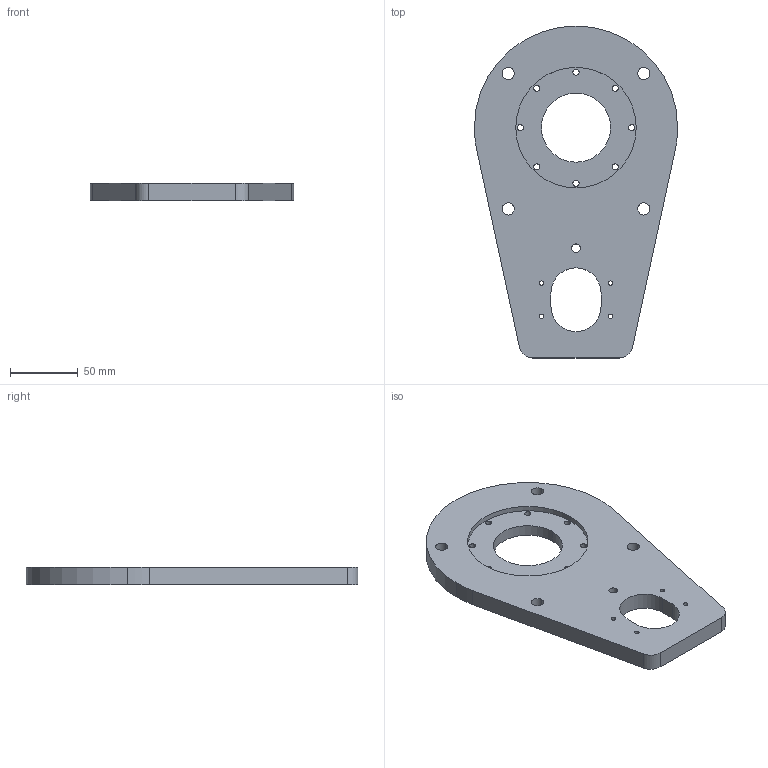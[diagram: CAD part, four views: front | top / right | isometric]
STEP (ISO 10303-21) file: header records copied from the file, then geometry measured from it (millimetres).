
FILE_DESCRIPTION (( 'STEP AP203' ), '1' );
FILE_NAME ('J1 base plate.STEP', '2017-08-02T23:43:54', ( '' ), ( '' ), 'SwSTEP 2.0', 'SolidWorks 2016', '' );
FILE_SCHEMA (( 'CONFIG_CONTROL_DESIGN' ));
Length unit declared in the file: millimetre
Products named in the file (1): J1 base plate
Bounding box: 150 x 245 x 12.7 mm (x, y, z)
Volume: 296344 mm3; surface area: 65574 mm2
Topology: 1 solids, 1 shells, 77 faces, 198 edges, 132 vertices
Faces by surface type: cylinder 61, plane 16
Entity records: 2567 total; most frequent: DIRECTION 476, CARTESIAN_POINT 408, ORIENTED_EDGE 396, AXIS2_PLACEMENT_3D 200, EDGE_CURVE 198, VERTEX_POINT 132, EDGE_LOOP 124, CIRCLE 122
